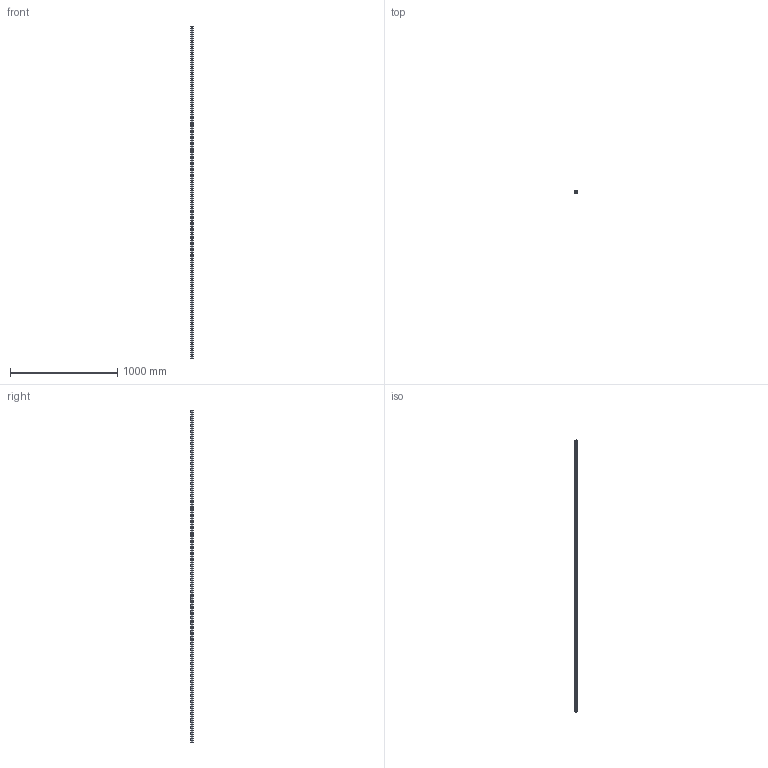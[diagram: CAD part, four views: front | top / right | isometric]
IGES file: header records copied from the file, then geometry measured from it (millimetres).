
Start section: SolidWorks IGES file using analytic representation for surfaces
Global section: file name: C:\Users\IanO\Desktop\L1016_v2\L1016.BL25_v2\L1016.BL25_v2_20160611_IGES\L1016.BL25-3100.igs; native system: SolidWorks 2017; preprocessor: SolidWorks 2017; author: IanO; date: 190612.131404; units: millimetre
Bounding box: 23 x 19.2 x 3100 mm (x, y, z)
Surface area: 293266.7 mm2 (no closed solid volume)
Topology: 0 solids, 0 shells, 286 faces, 7656 edges, 7656 vertices
Faces by surface type: revolution 212, bspline 74
